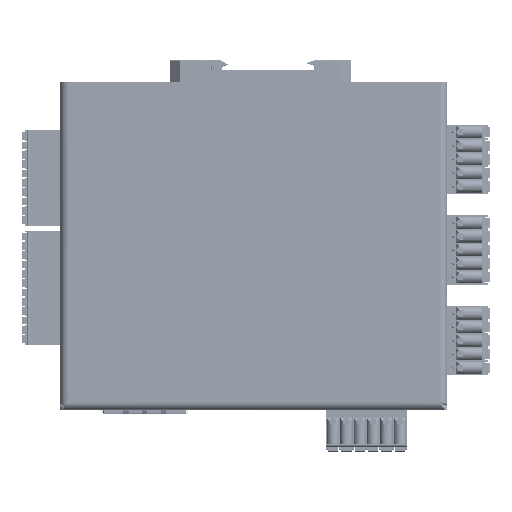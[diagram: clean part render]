
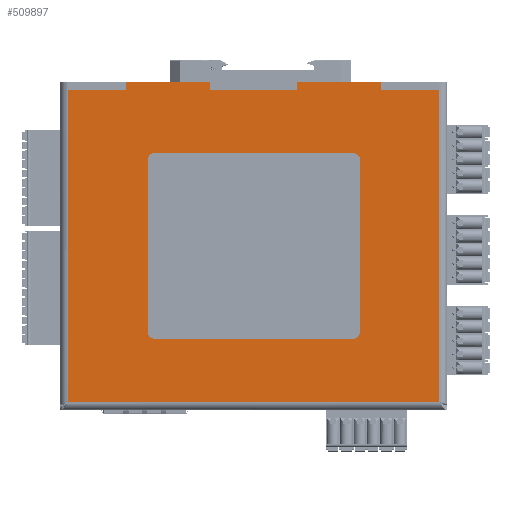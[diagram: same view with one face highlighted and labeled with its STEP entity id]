
A CAD part, top view. The second image highlights one B-rep face of the part: STEP entity #509897.
In plain terms, the highlighted planar face has unit normal (0, 0, 1) as drawn and (0, 1, 0) by its records, which use the part's own axes.
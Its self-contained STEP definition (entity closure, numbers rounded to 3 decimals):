
#15316 = EDGE_CURVE ( 'NONE', #181133, #418009, #327710, .T. ) ;
#25728 = EDGE_CURVE ( 'NONE', #254279, #282014, #497413, .T. ) ;
#27516 = VECTOR ( 'NONE', #680077, 1000. ) ;
#33119 = CARTESIAN_POINT ( 'NONE',  ( -47.75, 1.5, -127.376 ) ) ;
#35268 = ORIENTED_EDGE ( 'NONE', *, *, #15316, .T. ) ;
#36774 = EDGE_CURVE ( 'NONE', #518641, #181133, #409021, .T. ) ;
#41465 = DIRECTION ( 'NONE',  ( 0., 0., 1. ) ) ;
#42095 = LINE ( 'NONE', #158399, #65152 ) ;
#49216 = DIRECTION ( 'NONE',  ( 0., 0., -1. ) ) ;
#50041 = CARTESIAN_POINT ( 'NONE',  ( -71., 1.5, -1.5 ) ) ;
#52902 = CARTESIAN_POINT ( 'NONE',  ( 0., 1.5, -61. ) ) ;
#56601 = CARTESIAN_POINT ( 'NONE',  ( 16.25, 1.5, -127.376 ) ) ;
#58865 = AXIS2_PLACEMENT_3D ( 'NONE', #657770, #260258, #488932 ) ;
#62604 = EDGE_CURVE ( 'NONE', #727997, #319060, #334304, .T. ) ;
#65152 = VECTOR ( 'NONE', #686915, 1000. ) ;
#71574 = CARTESIAN_POINT ( 'NONE',  ( 0., 1.5, -64.1 ) ) ;
#73422 = EDGE_CURVE ( 'NONE', #111374, #258935, #617590, .T. ) ;
#80250 = CARTESIAN_POINT ( 'NONE',  ( 69.5, 1.5, -1.5 ) ) ;
#101505 = ORIENTED_EDGE ( 'NONE', *, *, #36774, .T. ) ;
#103717 = CARTESIAN_POINT ( 'NONE',  ( -71., 1.5, -121.5 ) ) ;
#109191 = DIRECTION ( 'NONE',  ( 0., 1., 0. ) ) ;
#111374 = VERTEX_POINT ( 'NONE', #651070 ) ;
#122885 = LINE ( 'NONE', #351595, #447090 ) ;
#137533 = VECTOR ( 'NONE', #145641, 1000. ) ;
#145641 = DIRECTION ( 'NONE',  ( 1., 0., 0. ) ) ;
#146313 = VERTEX_POINT ( 'NONE', #363185 ) ;
#147018 = EDGE_CURVE ( 'NONE', #518641, #327986, #367026, .T. ) ;
#148593 = EDGE_CURVE ( 'NONE', #353091, #727997, #42095, .T. ) ;
#149799 = EDGE_CURVE ( 'NONE', #146313, #319060, #507066, .T. ) ;
#158399 = CARTESIAN_POINT ( 'NONE',  ( -16.25, 1.5, -118.5 ) ) ;
#161520 = CARTESIAN_POINT ( 'NONE',  ( 0., 1.5, 0. ) ) ;
#161845 = AXIS2_PLACEMENT_3D ( 'NONE', #52902, #109191, #570419 ) ;
#164899 = CARTESIAN_POINT ( 'NONE',  ( 0., 1.5, -57.9 ) ) ;
#181133 = VERTEX_POINT ( 'NONE', #218711 ) ;
#186249 = LINE ( 'NONE', #651064, #409300 ) ;
#189047 = CARTESIAN_POINT ( 'NONE',  ( 69.5, 1.5, -118.5 ) ) ;
#191203 = EDGE_CURVE ( 'NONE', #418009, #622046, #436374, .T. ) ;
#193260 = ORIENTED_EDGE ( 'NONE', *, *, #450320, .F. ) ;
#200890 = CARTESIAN_POINT ( 'NONE',  ( -69.5, 1.5, -118.5 ) ) ;
#217811 = DIRECTION ( 'NONE',  ( 0., 1., 0. ) ) ;
#218711 = CARTESIAN_POINT ( 'NONE',  ( -69.5, 1.5, -1.5 ) ) ;
#220974 = ORIENTED_EDGE ( 'NONE', *, *, #149799, .T. ) ;
#244835 = ORIENTED_EDGE ( 'NONE', *, *, #148593, .F. ) ;
#254279 = VERTEX_POINT ( 'NONE', #71574 ) ;
#258935 = VERTEX_POINT ( 'NONE', #349186 ) ;
#260258 = DIRECTION ( 'NONE',  ( 0., 1., 0. ) ) ;
#268169 = VECTOR ( 'NONE', #49216, 1000. ) ;
#273889 = VECTOR ( 'NONE', #309048, 1000. ) ;
#282014 = VERTEX_POINT ( 'NONE', #164899 ) ;
#288324 = CARTESIAN_POINT ( 'NONE',  ( 47.75, 1.5, -118.5 ) ) ;
#309048 = DIRECTION ( 'NONE',  ( 0., 0., -1. ) ) ;
#310668 = CARTESIAN_POINT ( 'NONE',  ( -86.244, 1.5, -118.5 ) ) ;
#319060 = VERTEX_POINT ( 'NONE', #628127 ) ;
#327710 = LINE ( 'NONE', #50041, #27516 ) ;
#327986 = VERTEX_POINT ( 'NONE', #677886 ) ;
#334304 = LINE ( 'NONE', #56601, #268169 ) ;
#336182 = ORIENTED_EDGE ( 'NONE', *, *, #191203, .T. ) ;
#342523 = VECTOR ( 'NONE', #447061, 1000. ) ;
#349186 = CARTESIAN_POINT ( 'NONE',  ( -47.75, 1.5, -121.5 ) ) ;
#351595 = CARTESIAN_POINT ( 'NONE',  ( -16.25, 1.5, -127.376 ) ) ;
#351927 = CARTESIAN_POINT ( 'NONE',  ( -16.25, 1.5, -118.5 ) ) ;
#352803 = DIRECTION ( 'NONE',  ( 0., 0., 1. ) ) ;
#353091 = VERTEX_POINT ( 'NONE', #351927 ) ;
#360633 = VECTOR ( 'NONE', #561311, 1000. ) ;
#363185 = CARTESIAN_POINT ( 'NONE',  ( 47.75, 1.5, -121.5 ) ) ;
#367026 = LINE ( 'NONE', #310668, #137533 ) ;
#388684 = EDGE_LOOP ( 'NONE', ( #35268, #336182, #193260, #640403, #220974, #647140, #244835, #433353, #651785, #445570, #521295, #101505 ) ) ;
#389162 = ORIENTED_EDGE ( 'NONE', *, *, #684494, .F. ) ;
#400319 = CARTESIAN_POINT ( 'NONE',  ( 47.75, 1.5, -118.5 ) ) ;
#409021 = LINE ( 'NONE', #634166, #570585 ) ;
#409300 = VECTOR ( 'NONE', #658443, 1000. ) ;
#418009 = VERTEX_POINT ( 'NONE', #546361 ) ;
#420519 = ORIENTED_EDGE ( 'NONE', *, *, #25728, .F. ) ;
#425023 = EDGE_CURVE ( 'NONE', #146313, #500463, #186249, .T. ) ;
#430769 = LINE ( 'NONE', #33119, #502194 ) ;
#433353 = ORIENTED_EDGE ( 'NONE', *, *, #702426, .F. ) ;
#436374 = LINE ( 'NONE', #80250, #273889 ) ;
#445570 = ORIENTED_EDGE ( 'NONE', *, *, #684406, .F. ) ;
#447061 = DIRECTION ( 'NONE',  ( -1., 0., 0. ) ) ;
#447090 = VECTOR ( 'NONE', #689149, 1000. ) ;
#450320 = EDGE_CURVE ( 'NONE', #500463, #622046, #621809, .T. ) ;
#459444 = DIRECTION ( 'NONE',  ( 0., 0., -1. ) ) ;
#475400 = VECTOR ( 'NONE', #618105, 1000. ) ;
#488932 = DIRECTION ( 'NONE',  ( 0., 0., 1. ) ) ;
#497413 = CIRCLE ( 'NONE', #161845, 3.1 ) ;
#500463 = VERTEX_POINT ( 'NONE', #288324 ) ;
#502194 = VECTOR ( 'NONE', #459444, 1000. ) ;
#507066 = LINE ( 'NONE', #555932, #342523 ) ;
#509897 = ADVANCED_FACE ( 'NONE', ( #607887, #731501 ), #611619, .T. ) ;
#518641 = VERTEX_POINT ( 'NONE', #200890 ) ;
#521295 = ORIENTED_EDGE ( 'NONE', *, *, #147018, .F. ) ;
#546361 = CARTESIAN_POINT ( 'NONE',  ( 69.5, 1.5, -1.5 ) ) ;
#555932 = CARTESIAN_POINT ( 'NONE',  ( -71., 1.5, -121.5 ) ) ;
#561311 = DIRECTION ( 'NONE',  ( -1., 0., 0. ) ) ;
#570419 = DIRECTION ( 'NONE',  ( 0., 0., 1. ) ) ;
#570585 = VECTOR ( 'NONE', #352803, 1000. ) ;
#607887 = FACE_BOUND ( 'NONE', #620437, .T. ) ;
#611619 = PLANE ( 'NONE',  #708210 ) ;
#617341 = CARTESIAN_POINT ( 'NONE',  ( 16.25, 1.5, -118.5 ) ) ;
#617590 = LINE ( 'NONE', #103717, #360633 ) ;
#618105 = DIRECTION ( 'NONE',  ( 1., 0., 0. ) ) ;
#620437 = EDGE_LOOP ( 'NONE', ( #389162, #420519 ) ) ;
#621809 = LINE ( 'NONE', #400319, #475400 ) ;
#622046 = VERTEX_POINT ( 'NONE', #189047 ) ;
#628127 = CARTESIAN_POINT ( 'NONE',  ( 16.25, 1.5, -121.5 ) ) ;
#634166 = CARTESIAN_POINT ( 'NONE',  ( -69.5, 1.5, -118.5 ) ) ;
#640403 = ORIENTED_EDGE ( 'NONE', *, *, #425023, .F. ) ;
#647140 = ORIENTED_EDGE ( 'NONE', *, *, #62604, .F. ) ;
#651064 = CARTESIAN_POINT ( 'NONE',  ( 47.75, 1.5, -127.376 ) ) ;
#651070 = CARTESIAN_POINT ( 'NONE',  ( -16.25, 1.5, -121.5 ) ) ;
#651785 = ORIENTED_EDGE ( 'NONE', *, *, #73422, .T. ) ;
#657770 = CARTESIAN_POINT ( 'NONE',  ( 0., 1.5, -61. ) ) ;
#658443 = DIRECTION ( 'NONE',  ( 0., 0., 1. ) ) ;
#677886 = CARTESIAN_POINT ( 'NONE',  ( -47.75, 1.5, -118.5 ) ) ;
#680077 = DIRECTION ( 'NONE',  ( 1., 0., 0. ) ) ;
#684406 = EDGE_CURVE ( 'NONE', #327986, #258935, #430769, .T. ) ;
#684494 = EDGE_CURVE ( 'NONE', #282014, #254279, #717308, .T. ) ;
#686915 = DIRECTION ( 'NONE',  ( 1., 0., 0. ) ) ;
#689149 = DIRECTION ( 'NONE',  ( 0., 0., 1. ) ) ;
#702426 = EDGE_CURVE ( 'NONE', #111374, #353091, #122885, .T. ) ;
#708210 = AXIS2_PLACEMENT_3D ( 'NONE', #161520, #217811, #41465 ) ;
#717308 = CIRCLE ( 'NONE', #58865, 3.1 ) ;
#727997 = VERTEX_POINT ( 'NONE', #617341 ) ;
#731501 = FACE_OUTER_BOUND ( 'NONE', #388684, .T. ) ;
